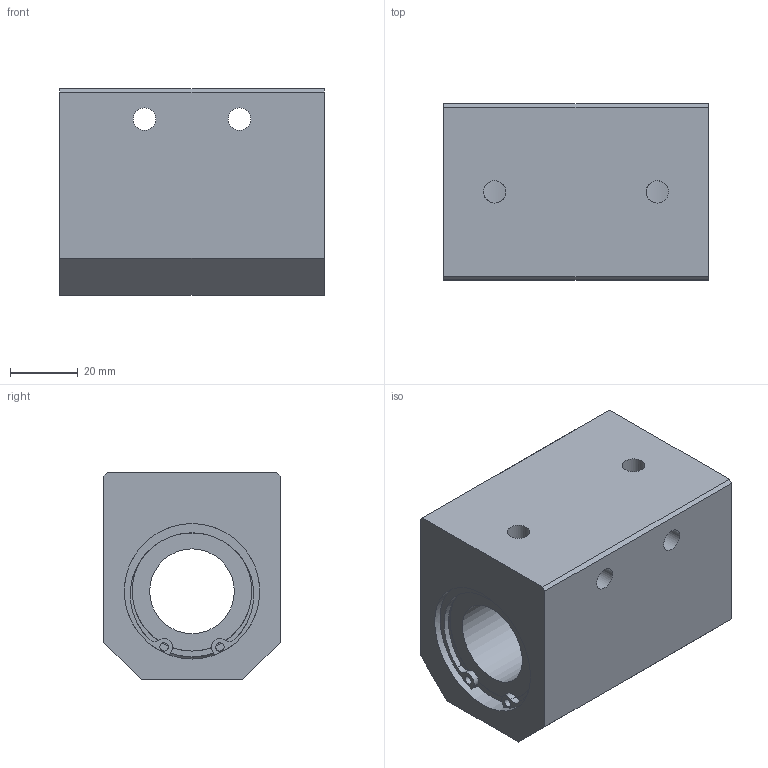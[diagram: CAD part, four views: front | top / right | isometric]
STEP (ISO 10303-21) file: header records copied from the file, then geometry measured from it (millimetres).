
FILE_DESCRIPTION((''),'2;1');
FILE_NAME('D:\製品 (図面)\カタログ用3D\メンテナンスフリー関連\STEP形式\CH-MF\CH25MF.stp','2010-06-01T15:30:29',('Tsuchiya'),(''),'Autodesk Inventor 10','Autodesk Inventor 10','');
FILE_SCHEMA(('AUTOMOTIVE_DESIGN { 1 0 10303 214 1 1 1 1 }'));
Length unit declared in the file: millimetre
Products named in the file (1): CH25MF
Bounding box: 78 x 52 x 61 mm (x, y, z)
Volume: 187402.1 mm3; surface area: 33528.1 mm2
Topology: 1 solids, 3 shells, 75 faces, 207 edges, 128 vertices
Faces by surface type: plane 33, bspline 22, cylinder 18, torus 2
Full cylindrical faces by diameter (mm): 2.5 x2, 25 x1, 35.3 x2, 38 x2, 40 x4
Entity records: 2538 total; most frequent: CARTESIAN_POINT 742, DIRECTION 388, ORIENTED_EDGE 336, AXIS2_PLACEMENT_3D 168, EDGE_CURVE 168, EDGE_LOOP 118, CIRCLE 114, VERTEX_POINT 112
